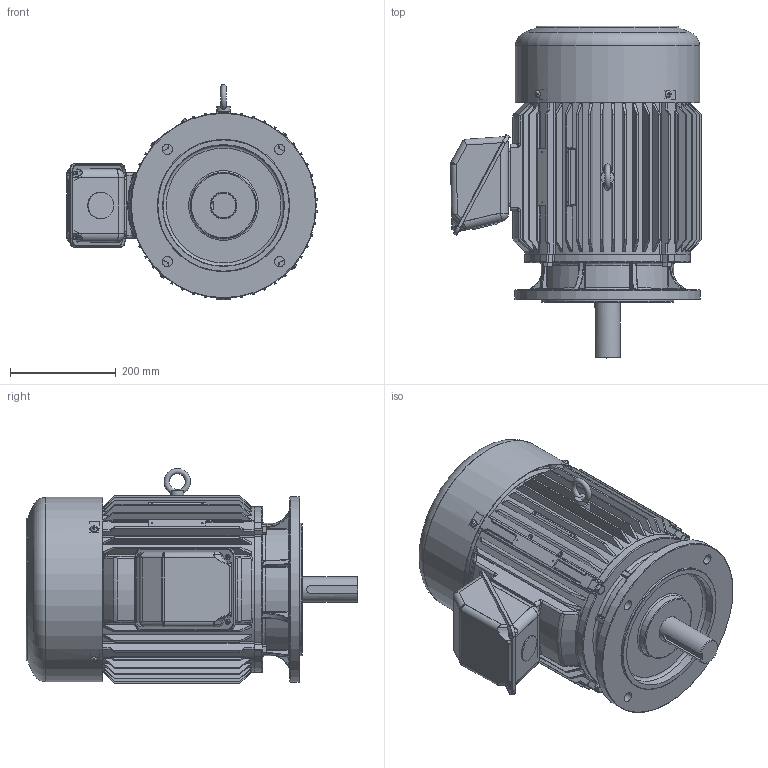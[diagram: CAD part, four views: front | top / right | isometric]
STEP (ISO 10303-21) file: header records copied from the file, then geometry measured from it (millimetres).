
FILE_DESCRIPTION(/* description */ ('Unknown'),/* implementation_level */ '2;1');
FILE_NAME(/* name */ '1-SMA-33836_외형도(300DIA)',/* time_stamp */ '2026-07-24T09:06:44+09:00',/* author */ ('Unknown'),/* organization */ ('Unknown'),/* preprocessor_version */ 'ST-DEVELOPER v16',/* originating_system */ 'DEX',/* authorisation */ $);
FILE_SCHEMA (('AUTOMOTIVE_DESIGN {1 0 10303 214 3 1 1}'));
Products named in the file (19): 1-SMA-33836_¿ÜÇüµµ(300DIxÆÖÄ³(; 2-SMA-30960M_FRAME(300DIA); 3-SMA-30961_擅粽塭鰍(300D; 4-SMA-30957_菴粽塭鰍(300D; 5-SMA-30958_SHAFT(300DIA); 6-SMA-31246_FAN(300DIA); 7-SMA-30959_FAN COVER(300DIA); Iº¼Æ® M12x1.75x22ÙŒ	; 褊濠 菅斬 該葬 獐お M8x1M; À°°¢º¼Æ® M10x1.5xùŒ	; 蹴辨 S4; 18.5~37kW_攪嘐割 夢蝶(300~330; T-BOX憶っ(300~330DIA; 18.5~37kW_堅鼠ぬ韁(300~330D; 褊濠 菅斬 該葬 獐お M5x; 9-SMA-33053_T-BOX(ж); 8-SMA-33052_T-BOX(鼻); 6310ZZ; 6309ZZ
Assembly tree (29 placements, depth 3):
  1-SMA-33836_¿ÜÇüµµ(300DIxÆÖÄ³(
    2-SMA-30960M_FRAME(300DIA)
    3-SMA-30961_擅粽塭鰍(300D
    4-SMA-30957_菴粽塭鰍(300D
    5-SMA-30958_SHAFT(300DIA)
    6-SMA-31246_FAN(300DIA)
    7-SMA-30959_FAN COVER(300DIA)
    Iº¼Æ® M12x1.75x22ÙŒ	
    褊濠 菅斬 該葬 獐お M8x1M  x4
    À°°¢º¼Æ® M10x1.5xùŒ	  x8
    蹴辨 S4
    18.5~37kW_攪嘐割 夢蝶(300~330
      T-BOX憶っ(300~330DIA
      18.5~37kW_堅鼠ぬ韁(300~330D
      褊濠 菅斬 該葬 獐お M5x  x2
      9-SMA-33053_T-BOX(ж)
      8-SMA-33052_T-BOX(鼻)
    6310ZZ
    6309ZZ
Bounding box: 473.43 x 626.49 x 406 mm (x, y, z)
Volume: 9070788.2 mm3; surface area: 2839931 mm2
Topology: 50 solids, 50 shells, 2197 faces, 5525 edges, 3430 vertices
Faces by surface type: plane 700, cylinder 631, cone 321, bspline 280, torus 221, sphere 44
Full cylindrical faces by diameter (mm): 2.2 x4, 2.5 x2, 4.134 x2, 5 x2, 6 x6, 6.647 x6, 7 x2, 8 x14, 8.376 x16, 9 x2, 10 x16, 10.106 x2, 12 x10, 14 x4, 19 x4, 25 x1, 39.5 x1, 40 x1, 44.7 x1, 45 x2, 45.8 x1, 48 x1, 49.7 x1, 50 x4, 50.5 x1, 55.1 x1, 58 x1, 59 x1, 60.714 x2, 61.114 x2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
Entity records: 88511 total; most frequent: CARTESIAN_POINT 39902, ORIENTED_EDGE 9362, DIRECTION 8530, EDGE_CURVE 4681, AXIS2_PLACEMENT_3D 3540, VERTEX_POINT 3078, FACE_BOUND 2399, EDGE_LOOP 2370
